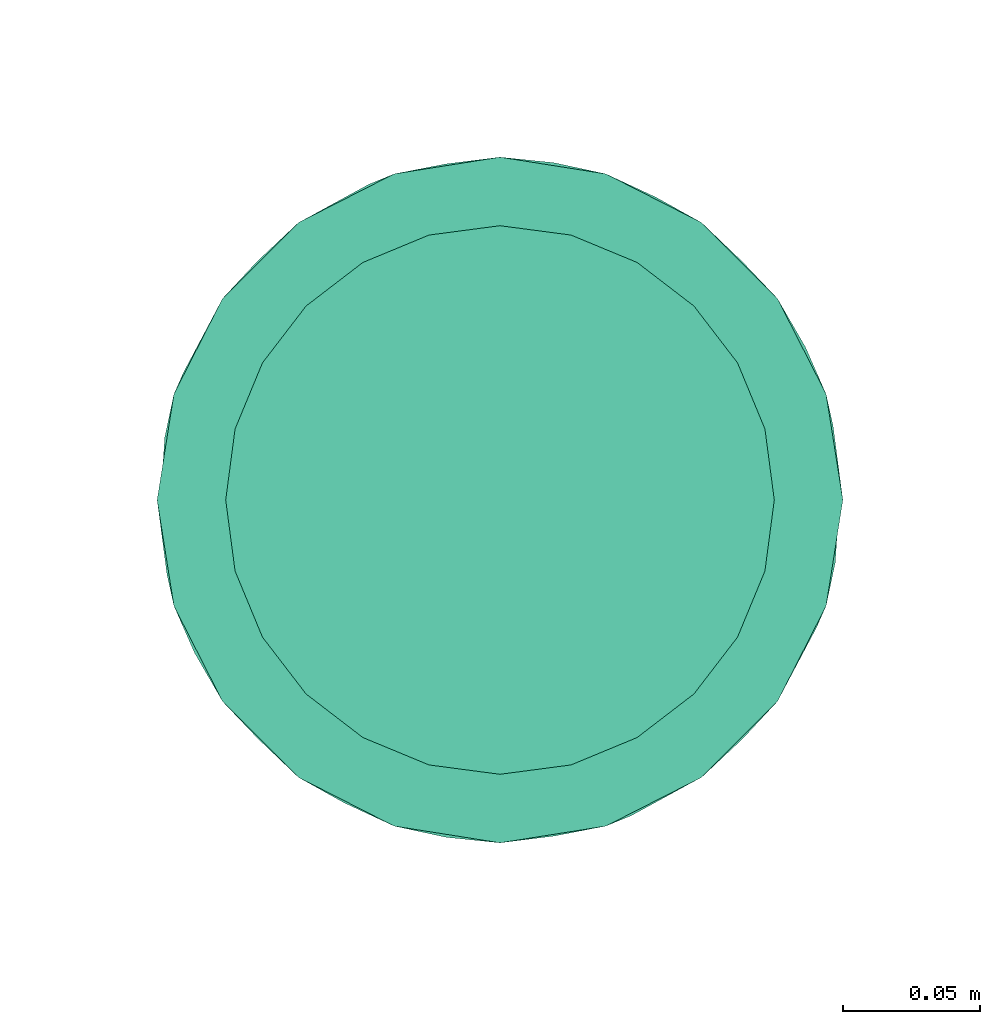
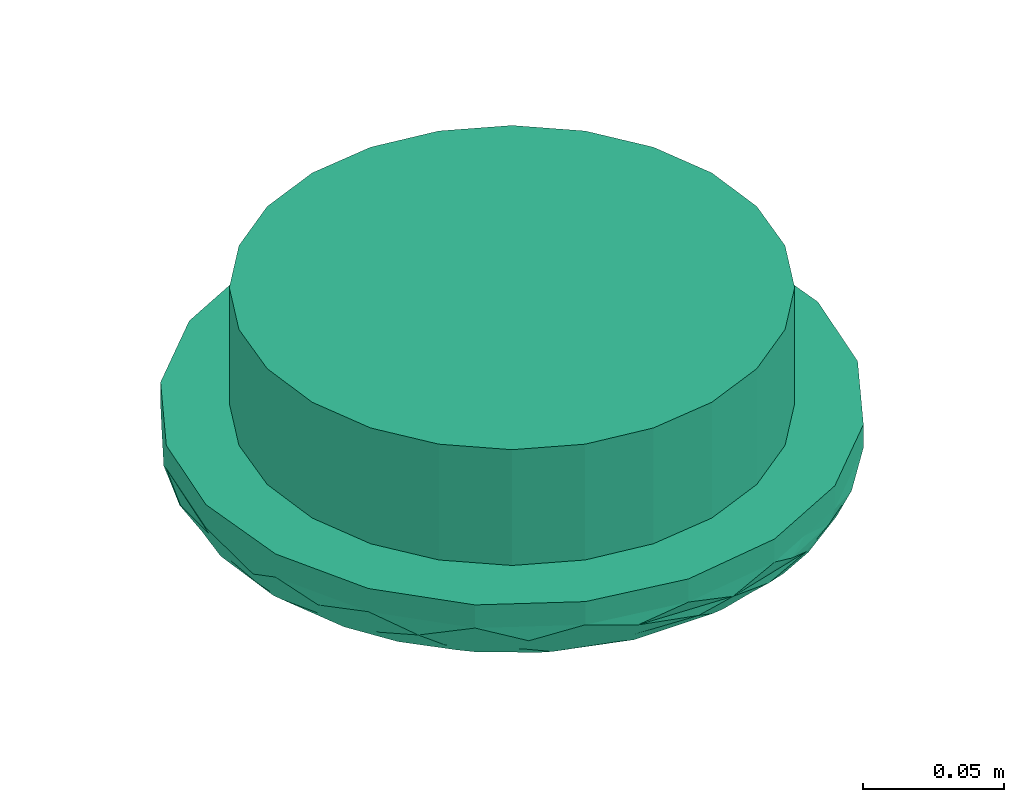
# One storey, part 13 of 14: 1 flow terminal.
"""IFC2X3 building model written with IfcOpenShell, lengths in millimetres."""

from ifc_helpers import new_model, entity, si_unit, converted_unit, derived_unit, direction, frame, origin, place, context, subcontext, project, spatial, faceted_brep, source, transform, mapped, type_object, type_shapes, element, save


model = new_model("IFC2X3")

# Units and contexts
model_context = context("Model", 3, precision=0.01, world=origin(), true_north=direction((6.12303176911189e-17, 1.0)))
context_of_model = context(None, 3, precision=0.01, world=origin(), true_north=direction((6.12303176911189e-17, 1.0)))
body_context = subcontext(model_context, "Body", "Model", "MODEL_VIEW")
ifc_project = project(units=[si_unit("LENGTHUNIT", "METRE", prefix="MILLI"), si_unit("AREAUNIT", "SQUARE_METRE"), si_unit("VOLUMEUNIT", "CUBIC_METRE"), converted_unit("PLANEANGLEUNIT", "DEGREE", entity("IfcRatioMeasure", 0.0174532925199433), si_unit("PLANEANGLEUNIT", "RADIAN"), dimensions=[0, 0, 0, 0, 0, 0, 0]), si_unit("MASSUNIT", "GRAM", prefix="KILO"), si_unit("TIMEUNIT", "SECOND"), si_unit("FREQUENCYUNIT", "HERTZ"), si_unit("THERMODYNAMICTEMPERATUREUNIT", "KELVIN"), derived_unit("THERMALTRANSMITTANCEUNIT", [(si_unit("MASSUNIT", "GRAM", prefix="KILO"), 1), (si_unit("THERMODYNAMICTEMPERATUREUNIT", "KELVIN"), -1), (si_unit("TIMEUNIT", "SECOND"), -3)]), derived_unit("VOLUMETRICFLOWRATEUNIT", [(si_unit("LENGTHUNIT", "METRE"), 3), (si_unit("TIMEUNIT", "SECOND"), -1)]), si_unit("ELECTRICCURRENTUNIT", "AMPERE"), si_unit("ELECTRICVOLTAGEUNIT", "VOLT"), si_unit("POWERUNIT", "WATT")], contexts=[model_context, context_of_model])

# Site, building, storey
site_placement = place(None, origin())
site = spatial("IfcSite", under=ifc_project, at=site_placement, Name="Surface", CompositionType="ELEMENT")
building_placement = place(site_placement, origin())
building = spatial("IfcBuilding", under=site, at=building_placement, CompositionType="ELEMENT")
storey_placement = place(building_placement, origin())
storey = spatial("IfcBuildingStorey", under=building, at=storey_placement, Name="00_begane grond", CompositionType="ELEMENT", Elevation=0.0)

# Flow terminal
air_terminal_type = type_object("IfcAirTerminalType", Name="afvoer_rozet_kanaaldiameter_200", PredefinedType="NOTDEFINED")
shared_shape = source(origin(), body_context, "Body", "Brep", [
    faceted_brep([(-125.0, 0.0, 0.0), (0.0, 0.0, 0.0), (-118.882064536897, 38.6271242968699, 0.0), (-118.882064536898, -38.6271242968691, 0.0), (-101.127124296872, -73.4731565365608, 0.0), (-73.4731565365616, -101.127124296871, 0.0), (-38.6271242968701, -118.882064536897, 0.0), (0.0, -125.0, 0.0), (38.6271242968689, -118.882064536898, 0.0), (73.4731565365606, -101.127124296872, 0.0), (101.127124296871, -73.4731565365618, 0.0), (118.882064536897, -38.6271242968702, 0.0), (125.0, 0.0, 0.0), (118.882064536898, 38.6271242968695, 0.0), (101.127124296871, 73.4731565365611, 0.0), (73.4731565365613, 101.127124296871, 0.0), (38.6271242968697, 118.882064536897, 0.0), (0.0, 125.0, 0.0), (-38.6271242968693, 118.882064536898, 0.0), (-73.473156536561, 101.127124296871, 0.0), (-101.127124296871, 73.4731565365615, 0.0), (-99.8609342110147, 32.4467844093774, -30.0), (0.0, 0.0, -30.0), (-105.0, 0.0, -30.0), (-84.9467844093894, 61.7174514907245, -30.0), (-61.7174514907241, 84.9467844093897, -30.0), (-32.446784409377, 99.8609342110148, -30.0), (0.0, 105.0, -30.0), (32.4467844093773, 99.8609342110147, -30.0), (61.7174514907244, 84.9467844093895, -30.0), (84.9467844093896, 61.7174514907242, -30.0), (99.8609342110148, 32.4467844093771, -30.0), (105.0, 0.0, -30.0), (99.8609342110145, -32.4467844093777, -30.0), (84.9467844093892, -61.7174514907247, -30.0), (61.7174514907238, -84.9467844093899, -30.0), (32.4467844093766, -99.8609342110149, -30.0), (0.0, -105.0, -30.0), (-32.4467844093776, -99.8609342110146, -30.0), (-61.7174514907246, -84.9467844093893, -30.0), (-84.9467844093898, -61.717451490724, -30.0), (-99.8609342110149, -32.4467844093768, -30.0), (97.7578550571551, 48.4926291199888, -29.5701143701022), (96.2462199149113, 59.7360843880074, -28.2067895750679), (109.544343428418, 32.1813666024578, -27.7720470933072), (-107.495014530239, 29.6803930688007, -28.9083328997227), (-112.07106781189, 0.0, -27.0710678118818), (-112.883755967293, 30.9382543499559, -25.9649070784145), (-38.6271242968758, 118.882064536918, -10.0), (0.0, 125.0, -10.0), (-19.6104530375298, 122.562470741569, -15.8626750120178), (115.311189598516, 36.772030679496, -21.9566180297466), (110.605776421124, 53.0782432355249, -19.3454572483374), (119.842595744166, 26.8094289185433, -19.1100394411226), (74.7103426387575, 80.766922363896, -29.3591162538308), (47.6879175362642, 100.915813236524, -28.8740061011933), (49.2902886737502, 103.995964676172, -27.2708093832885), (68.7294919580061, 92.0537725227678, -27.3886798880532), (-16.3641857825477, 109.021035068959, -29.3007231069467), (-20.4835247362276, 114.051262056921, -26.7842472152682), (16.3969048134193, 114.696748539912, -26.7928033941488), (106.564040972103, 23.288550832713, -29.579603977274), (16.3652298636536, 108.546652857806, -29.4220177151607), (121.43501422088, 27.1530155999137, -14.7255474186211), (125.0, 0.0, -10.0), (123.75398173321, 0.0, -13.0081541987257), (123.535533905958, 0.0, -13.5355339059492), (122.07106781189, 0.0, -17.0710678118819), (111.353067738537, 55.7710166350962, -14.2702935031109), (-119.85827518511, 27.5564175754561, -18.7482662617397), (-115.358616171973, 46.5907423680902, -14.8145828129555), (-110.605776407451, 53.0782432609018, -19.3454572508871), (-56.0501404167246, 110.004594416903, -10.0), (-47.9368833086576, 115.05031699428, -13.790305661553), (-70.2936663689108, 102.822428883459, -14.2010167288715), (73.4731565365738, 101.127124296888, -10.0), (56.8737505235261, 110.385775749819, -15.6821282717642), (38.6271242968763, 118.882064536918, -10.0), (46.3363476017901, 108.696859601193, -25.059327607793), (76.0248325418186, 91.6276878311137, -24.2232791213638), (-5.42392917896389, 122.701687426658, -19.0771037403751), (-38.2001972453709, 115.805882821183, -20.6260151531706), (101.127124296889, 73.4731565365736, -10.0), (118.882064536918, 38.6271242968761, -10.0), (88.43329189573, 86.8383343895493, -16.422056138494), (-80.2843499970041, 90.5893471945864, -21.9391279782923), (-88.4574007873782, 87.071334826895, -15.8626750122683), (-56.8573166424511, 109.704826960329, -17.4432337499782), (19.6035426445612, 122.989049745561, -14.2575387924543), (-12.6919402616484, 119.973536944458, -22.4617960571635), (-47.6233559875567, 97.227857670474, -29.7317480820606), (-47.7150094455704, 101.760295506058, -28.5839639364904), (-74.682241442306, 80.4678740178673, -29.4194184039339), (-73.3191800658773, 89.0201441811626, -27.1276279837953), (-73.4731565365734, 101.127124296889, -10.0), (-107.940925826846, 0.0, -28.7818286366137), (-105.130912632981, 57.185165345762, -23.5859258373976), (-97.1193660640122, 63.1987219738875, -26.7870856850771), (-95.270856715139, 55.6783433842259, -29.2717966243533), (-101.127124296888, 73.473156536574, -10.0), (-116.309741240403, 31.8864107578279, -22.5138377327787), (-104.20516665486, 67.2904184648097, -16.111977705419), (110.881851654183, 0.0, -27.5636572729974), (107.940925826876, 0.0, -28.781828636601), (-115.011993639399, 0.0, -25.8528964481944), (-115.606601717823, 0.0, -25.6066017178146), (-119.142135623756, 0.0, -24.1421356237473), (-96.1562418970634, 75.7928897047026, -19.7971604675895), (19.9864243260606, 118.066788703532, -23.5107660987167), (102.891019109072, 59.3531207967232, -24.4925596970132), (91.6589430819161, 77.8843818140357, -22.904027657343), (97.3732037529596, 74.3649316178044, -19.6422669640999), (56.7941852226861, 107.6892372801, -20.9319634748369), (-110.881851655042, 0.0, -27.5636572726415), (-122.253703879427, 22.7859043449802, -15.022787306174), (-43.8257199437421, 107.361615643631, -26.7281861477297), (-48.0666711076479, 108.957532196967, -24.1952441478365), (19.603924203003, 121.116907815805, -19.3247509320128), (-60.2270207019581, 105.362661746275, -21.5024019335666), (-68.4959838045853, 97.3318684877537, -24.2655704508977), (-85.3991436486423, 81.6968759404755, -25.0395926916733), (80.4803243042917, 91.7183396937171, -20.5002850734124), (90.0275440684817, 75.2264233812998, -25.7549528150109), (114.592351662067, 29.6815947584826, -24.8706454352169), (115.011993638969, 0.0, -25.8528964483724), (112.07106781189, 0.0, -27.0710678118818), (-120.606601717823, 0.0, -20.6066017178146), (-122.07106781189, 0.0, -17.0710678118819), (-123.535533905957, 0.0, -13.5355339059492), (-123.753981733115, 0.0, -13.0081541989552), (-118.882064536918, 38.6271242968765, -10.0), (-125.0, 0.0, -10.0), (120.606601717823, 0.0, -20.6066017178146), (119.142135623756, 0.0, -24.1421356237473), (115.606601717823, 0.0, -25.6066017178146), (-97.757855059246, -48.4926291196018, -29.5701143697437), (-96.2462198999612, -59.7360844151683, -28.2067895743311), (-109.544343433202, -32.1813666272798, -27.7720470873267), (107.495014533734, -29.6803930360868, -28.9083329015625), (112.883755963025, -30.9382543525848, -25.9649070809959), (38.6271242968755, -118.882064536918, -10.0), (0.0, -125.0, -10.0), (19.6104530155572, -122.562470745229, -15.8626750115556), (-115.311189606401, -36.7720306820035, -21.9566180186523), (-110.605776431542, -53.0782432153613, -19.3454572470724), (-119.842595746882, -26.8094289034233, -19.1100394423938), (-74.7103426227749, -80.7669223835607, -29.3591162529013), (-47.687917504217, -100.915813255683, -28.8740060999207), (-49.2902886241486, -103.995964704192, -27.2708093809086), (-68.7294919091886, -92.0537725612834, -27.3886798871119), (16.364185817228, -109.021035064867, -29.3007231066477), (20.4835248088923, -114.051262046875, -26.7842472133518), (-16.3969047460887, -114.696748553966, -26.7928033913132), (-106.564040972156, -23.2885508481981, -29.5796039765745), (-16.3652298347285, -108.546652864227, -29.4220177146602), (-121.435014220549, -27.1530156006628, -14.7255474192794), (-111.353067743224, -55.7710166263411, -14.2702935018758), (119.858275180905, -27.5564176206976, -18.7482662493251), (115.358616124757, -46.5907424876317, -14.8145828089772), (110.605776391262, -53.0782432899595, -19.3454572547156), (5.42392912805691, -122.701687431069, -19.0771037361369), (38.2001973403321, -115.805882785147, -20.6260151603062), (-73.4731565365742, -101.127124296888, -10.0), (-56.8737505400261, -110.385775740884, -15.6821282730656), (-38.6271242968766, -118.882064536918, -10.0), (-46.3363475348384, -108.696859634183, -25.0593276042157), (-76.0248324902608, -91.6276878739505, -24.2232791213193), (-101.127124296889, -73.4731565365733, -10.0), (-118.882064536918, -38.6271242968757, -10.0), (47.6233560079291, -97.2278576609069, -29.7317480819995), (80.2843499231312, -90.5893472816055, -21.9391279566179), (88.4574007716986, -87.0713348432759, -15.8626750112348), (56.8573166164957, -109.704826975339, -17.443233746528), (-19.6035426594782, -122.989049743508, -14.2575387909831), (12.6919403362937, -119.973536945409, -22.4617960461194), (-88.4332919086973, -86.8383343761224, -16.4220561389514), (73.3191801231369, -89.0201441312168, -27.1276279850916), (47.715009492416, -101.760295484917, -28.5839639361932), (74.6822414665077, -80.4678739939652, -29.419418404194), (73.4731565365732, -101.127124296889, -10.0), (56.0501404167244, -110.004594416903, -10.0), (70.2936663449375, -102.822428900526, -14.2010167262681), (105.130912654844, -57.1851653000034, -23.5859258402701), (97.1193661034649, -63.1987219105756, -26.7870856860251), (95.2708567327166, -55.6783433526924, -29.2717966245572), (47.936883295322, -115.05031700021, -13.7903056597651), (101.127124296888, -73.4731565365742, -10.0), (116.309741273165, -31.886410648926, -22.5138377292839), (104.205166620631, -67.2904185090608, -16.1119777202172), (96.156241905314, -75.7928896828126, -19.797160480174), (-19.9864242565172, -118.066788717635, -23.5107660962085), (-102.891019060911, -59.3531208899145, -24.4925596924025), (-91.6589430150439, -77.884381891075, -22.9040276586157), (-97.3732037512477, -74.3649316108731, -19.6422669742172), (-56.7941851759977, -107.689237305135, -20.9319634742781), (122.253703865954, -22.7859044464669, -15.0227872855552), (43.8257200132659, -107.361615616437, -26.7281861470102), (48.0666712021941, -108.957532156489, -24.1952441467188), (-19.6039242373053, -121.116907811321, -19.3247509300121), (60.2270206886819, -105.362661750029, -21.5024019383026), (68.4959838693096, -97.3318684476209, -24.2655704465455), (85.3991437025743, -81.6968759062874, -25.0395926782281), (-80.4803242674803, -91.7183397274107, -20.5002850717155), (-90.0275440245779, -75.2264234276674, -25.7549528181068), (-114.592351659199, -29.6815948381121, -24.8706454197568), (118.882064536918, -38.6271242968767, -10.0)], [[[0, 1, 2]], [[0, 3, 1]], [[1, 3, 4]], [[1, 4, 5]], [[1, 5, 6]], [[6, 7, 1]], [[8, 1, 7]], [[1, 8, 9]], [[1, 9, 10]], [[11, 1, 10]], [[1, 11, 12]], [[1, 12, 13]], [[1, 13, 14]], [[14, 15, 1]], [[1, 15, 16]], [[16, 17, 1]], [[1, 17, 18]], [[19, 1, 18]], [[1, 19, 20]], [[2, 1, 20]], [[21, 22, 23]], [[24, 22, 21]], [[24, 25, 22]], [[26, 22, 25]], [[26, 27, 22]], [[22, 27, 28]], [[28, 29, 22]], [[22, 29, 30]], [[30, 31, 22]], [[31, 32, 22]], [[32, 33, 22]], [[34, 22, 33]], [[34, 35, 22]], [[35, 36, 22]], [[37, 22, 36]], [[22, 37, 38]], [[38, 39, 22]], [[39, 40, 22]], [[40, 41, 22]], [[22, 41, 23]], [[42, 43, 44]], [[45, 46, 47]], [[48, 49, 50]], [[51, 52, 53]], [[54, 30, 29]], [[55, 56, 57]], [[58, 59, 60]], [[61, 32, 31]], [[57, 43, 54]], [[62, 28, 27]], [[55, 54, 29]], [[63, 64, 65, 66, 67]], [[68, 63, 53]], [[69, 70, 71]], [[72, 73, 74]], [[75, 76, 77]], [[78, 79, 57]], [[50, 80, 81]], [[68, 82, 83]], [[68, 84, 82]], [[28, 55, 29]], [[85, 86, 87]], [[88, 49, 77]], [[60, 59, 89]], [[75, 84, 76]], [[25, 90, 26]], [[91, 92, 93]], [[94, 72, 74]], [[82, 84, 75]], [[21, 23, 95]], [[47, 96, 97]], [[98, 24, 21]], [[25, 24, 92]], [[72, 48, 73]], [[94, 86, 99]], [[26, 90, 58]], [[100, 69, 71]], [[101, 99, 86]], [[61, 102, 103, 32]], [[47, 46, 104, 105, 106]], [[71, 101, 107]], [[62, 27, 58]], [[89, 108, 60]], [[58, 27, 26]], [[24, 98, 92]], [[61, 44, 102]], [[109, 110, 111]], [[68, 53, 52]], [[79, 78, 112]], [[45, 95, 113, 46]], [[114, 70, 69]], [[93, 92, 98]], [[59, 58, 91]], [[62, 60, 55]], [[57, 54, 55]], [[42, 54, 43]], [[91, 115, 59]], [[89, 59, 116]], [[88, 50, 49]], [[80, 117, 89]], [[118, 87, 81]], [[70, 101, 71]], [[89, 116, 81]], [[89, 117, 108]], [[119, 93, 120]], [[120, 96, 85]], [[45, 98, 21]], [[95, 45, 21]], [[97, 98, 45]], [[96, 100, 71]], [[97, 45, 47]], [[112, 121, 79]], [[88, 76, 117]], [[93, 98, 97]], [[90, 92, 91]], [[60, 62, 58]], [[55, 28, 62]], [[120, 93, 97]], [[93, 119, 115]], [[56, 60, 78]], [[57, 79, 122]], [[60, 108, 78]], [[112, 117, 76]], [[112, 78, 108]], [[121, 76, 84]], [[42, 61, 31]], [[61, 42, 44]], [[44, 43, 109]], [[123, 124, 44]], [[79, 110, 122]], [[110, 79, 121]], [[31, 30, 42]], [[54, 42, 30]], [[123, 44, 109]], [[44, 124, 125, 102]], [[112, 108, 117]], [[100, 96, 47]], [[96, 71, 107]], [[47, 106, 100]], [[100, 126, 69]], [[76, 121, 112]], [[114, 127, 128, 129]], [[114, 130, 70]], [[99, 70, 130]], [[126, 100, 106]], [[131, 130, 129]], [[126, 127, 69]], [[121, 84, 111]], [[68, 111, 84]], [[109, 111, 52]], [[111, 110, 121]], [[122, 110, 109]], [[109, 43, 122]], [[57, 122, 43]], [[99, 101, 70]], [[107, 86, 85]], [[86, 107, 101]], [[96, 107, 85]], [[63, 68, 83]], [[68, 52, 111]], [[63, 67, 53]], [[53, 67, 132]], [[51, 132, 133]], [[76, 88, 77]], [[51, 133, 123]], [[88, 117, 80]], [[127, 114, 69]], [[130, 114, 129]], [[92, 90, 25]], [[58, 90, 91]], [[73, 50, 87]], [[50, 73, 48]], [[73, 87, 74]], [[87, 86, 74]], [[86, 94, 74]], [[93, 115, 91]], [[116, 59, 115]], [[118, 81, 116]], [[50, 81, 87]], [[119, 118, 116]], [[87, 118, 85]], [[81, 80, 89]], [[88, 80, 50]], [[96, 120, 97]], [[119, 120, 85]], [[118, 119, 85]], [[119, 116, 115]], [[60, 56, 55]], [[78, 57, 56]], [[109, 52, 51]], [[123, 133, 134, 124]], [[132, 51, 53]], [[109, 51, 123]], [[64, 63, 83]], [[135, 136, 137]], [[138, 125, 139]], [[140, 141, 142]], [[143, 144, 145]], [[146, 40, 39]], [[147, 148, 149]], [[150, 151, 152]], [[153, 23, 41]], [[149, 136, 146]], [[154, 38, 37]], [[147, 146, 39]], [[155, 131, 129, 128, 127]], [[156, 155, 145]], [[157, 158, 159]], [[142, 160, 161]], [[162, 163, 164]], [[165, 166, 149]], [[139, 125, 124, 134, 133]], [[156, 167, 168]], [[36, 169, 150]], [[38, 147, 39]], [[170, 171, 172]], [[164, 173, 141]], [[152, 151, 174]], [[162, 175, 163]], [[35, 169, 36]], [[176, 177, 178]], [[179, 180, 181]], [[167, 175, 162]], [[33, 32, 103]], [[139, 182, 183]], [[33, 184, 34]], [[154, 37, 150]], [[140, 185, 180]], [[179, 171, 186]], [[156, 175, 167]], [[187, 157, 159]], [[188, 186, 171]], [[153, 113, 95, 23]], [[180, 185, 181]], [[159, 188, 189]], [[35, 34, 178]], [[174, 190, 152]], [[150, 37, 36]], [[34, 184, 178]], [[153, 137, 113]], [[191, 192, 193]], [[156, 145, 144]], [[166, 165, 194]], [[138, 103, 102, 125]], [[195, 158, 157]], [[176, 178, 184]], [[151, 150, 177]], [[154, 152, 147]], [[149, 146, 147]], [[135, 146, 136]], [[177, 196, 151]], [[174, 151, 197]], [[173, 142, 141]], [[160, 198, 174]], [[199, 172, 161]], [[158, 188, 159]], [[174, 197, 161]], [[174, 198, 190]], [[200, 176, 201]], [[201, 182, 170]], [[138, 184, 33]], [[103, 138, 33]], [[183, 184, 138]], [[182, 187, 159]], [[183, 138, 139]], [[194, 202, 166]], [[173, 163, 198]], [[176, 184, 183]], [[169, 178, 177]], [[152, 154, 150]], [[147, 38, 154]], [[201, 176, 183]], [[176, 200, 196]], [[148, 152, 165]], [[149, 166, 203]], [[152, 190, 165]], [[194, 198, 163]], [[194, 165, 190]], [[202, 163, 175]], [[135, 153, 41]], [[153, 135, 137]], [[137, 136, 191]], [[204, 104, 137]], [[166, 192, 203]], [[192, 166, 202]], [[41, 40, 135]], [[146, 135, 40]], [[204, 137, 191]], [[137, 104, 46, 113]], [[194, 190, 198]], [[187, 182, 139]], [[182, 159, 189]], [[139, 133, 187]], [[187, 132, 157]], [[163, 202, 194]], [[195, 67, 66, 65]], [[195, 205, 158]], [[186, 158, 205]], [[132, 187, 133]], [[64, 205, 65]], [[132, 67, 157]], [[202, 175, 193]], [[156, 193, 175]], [[191, 193, 144]], [[193, 192, 202]], [[203, 192, 191]], [[191, 136, 203]], [[149, 203, 136]], [[186, 188, 158]], [[189, 171, 170]], [[171, 189, 188]], [[182, 189, 170]], [[155, 156, 168]], [[156, 144, 193]], [[155, 127, 145]], [[145, 127, 126]], [[143, 126, 106]], [[163, 173, 164]], [[143, 106, 204]], [[173, 198, 160]], [[67, 195, 157]], [[205, 195, 65]], [[178, 169, 35]], [[150, 169, 177]], [[172, 181, 185]], [[140, 142, 185]], [[142, 172, 185]], [[172, 171, 181]], [[171, 179, 181]], [[176, 196, 177]], [[197, 151, 196]], [[199, 161, 197]], [[142, 161, 172]], [[200, 199, 197]], [[172, 199, 170]], [[161, 160, 174]], [[173, 160, 142]], [[182, 201, 183]], [[200, 201, 170]], [[199, 200, 170]], [[200, 197, 196]], [[152, 148, 147]], [[165, 149, 148]], [[191, 144, 143]], [[204, 106, 105, 104]], [[126, 143, 145]], [[191, 143, 204]], [[131, 155, 168]], [[64, 83, 13, 12]], [[75, 77, 16, 15]], [[82, 75, 15, 14]], [[83, 82, 14, 13]], [[16, 77, 49, 17]], [[18, 48, 72, 94, 19]], [[130, 131, 0, 2]], [[99, 130, 2, 20]], [[94, 99, 20, 19]], [[18, 17, 49, 48]], [[131, 168, 3, 0]], [[162, 164, 6, 5]], [[167, 162, 5, 4]], [[168, 167, 4, 3]], [[6, 164, 141, 7]], [[8, 140, 180, 179, 9]], [[205, 64, 12, 11]], [[186, 205, 11, 10]], [[179, 186, 10, 9]], [[8, 7, 141, 140]]]),
    faceted_brep([(25.8819045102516, -96.592582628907, 50.0), (50.0, -86.6025403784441, 50.0), (70.7106781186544, -70.7106781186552, 50.0), (86.6025403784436, -50.0, 50.0), (96.5925826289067, -25.8819045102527, 50.0), (100.0, 0.0, 50.0), (96.5925826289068, 25.8819045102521, 50.0), (86.6025403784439, 50.0, 50.0), (70.7106781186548, 70.7106781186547, 50.0), (50.0, 86.6025403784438, 50.0), (25.8819045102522, 96.5925826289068, 50.0), (0.0, 100.0, 50.0), (-25.8819045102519, 96.5925826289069, 50.0), (-50.0, 86.602540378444, 50.0), (-70.7106781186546, 70.7106781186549, 50.0), (-86.6025403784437, 50.0, 50.0), (-96.5925826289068, 25.8819045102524, 50.0), (-100.0, 0.0, 50.0), (-96.5925826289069, -25.8819045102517, 50.0), (-86.6025403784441, -50.0, 50.0), (-70.710678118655, -70.7106781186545, 50.0), (-50.0, -86.6025403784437, 50.0), (-25.8819045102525, -96.5925826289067, 50.0), (0.0, -100.0, 50.0), (25.8819045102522, 96.5925826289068, 0.0), (50.0, 86.6025403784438, 0.0), (70.7106781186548, 70.7106781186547, 0.0), (86.6025403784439, 50.0, 0.0), (96.5925826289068, 25.8819045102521, 0.0), (100.0, 0.0, 0.0), (96.5925826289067, -25.8819045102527, 0.0), (86.6025403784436, -50.0, 0.0), (70.7106781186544, -70.7106781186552, 0.0), (50.0, -86.6025403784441, 0.0), (25.8819045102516, -96.592582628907, 0.0), (0.0, -100.0, 0.0), (-25.8819045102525, -96.5925826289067, 0.0), (-50.0, -86.6025403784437, 0.0), (-70.710678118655, -70.7106781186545, 0.0), (-86.6025403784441, -50.0, 0.0), (-96.5925826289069, -25.8819045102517, 0.0), (-100.0, 0.0, 0.0), (-96.5925826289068, 25.8819045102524, 0.0), (-86.6025403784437, 50.0, 0.0), (-70.7106781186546, 70.7106781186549, 0.0), (-50.0, 86.602540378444, 0.0), (-25.8819045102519, 96.5925826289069, 0.0), (0.0, 100.0, 0.0)], [[[0, 1, 2, 3, 4, 5, 6, 7, 8, 9, 10, 11, 12, 13, 14, 15, 16, 17, 18, 19, 20, 21, 22, 23]], [[24, 25, 26, 27, 28, 29, 30, 31, 32, 33, 34, 35, 36, 37, 38, 39, 40, 41, 42, 43, 44, 45, 46, 47]], [[40, 18, 17, 41]], [[39, 19, 18, 40]], [[21, 20, 38, 37]], [[39, 38, 20, 19]], [[22, 21, 37, 36]], [[23, 22, 36, 35]], [[34, 0, 23, 35]], [[33, 1, 0, 34]], [[30, 29, 5, 4]], [[32, 2, 1, 33]], [[31, 3, 2, 32]], [[3, 31, 30, 4]], [[28, 6, 5, 29]], [[27, 7, 6, 28]], [[9, 8, 26, 25]], [[27, 26, 8, 7]], [[10, 9, 25, 24]], [[11, 10, 24, 47]], [[13, 45, 44, 14]], [[15, 43, 42, 16]], [[44, 43, 15, 14]], [[16, 42, 41, 17]], [[12, 46, 45, 13]], [[46, 12, 11, 47]]]),
])
type_shapes(air_terminal_type, [shared_shape])
flow_terminal_placement = place(storey_placement, frame((4501.35842759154, -31370.8951915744, 0.0)))
element("IfcFlowTerminal", 1, at=flow_terminal_placement, inside=storey, type_object=air_terminal_type, Name="57_AT_afv_rozet_FB:afvoer_rozet_kanaaldiameter_200", ObjectType="afvoer_rozet_kanaaldiameter_200", context=body_context, shape_type="MappedRepresentation", body=[
    mapped(shared_shape, transform((0.0, 0.0, 0.0), scale=1.0)),
])

save(model, "model.ifc")
